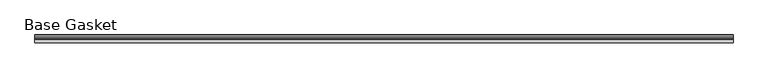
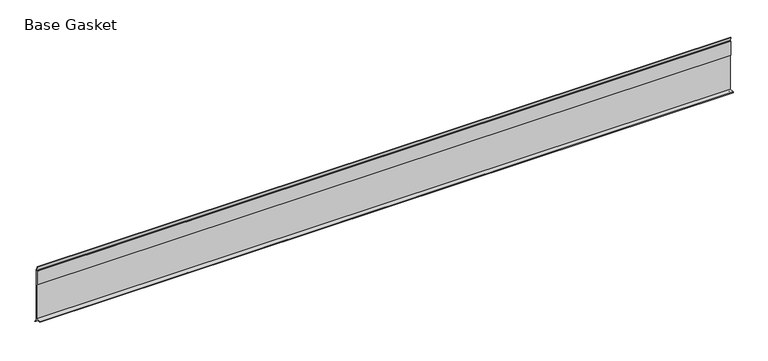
"""IFC4 building model written with IfcOpenShell, lengths in millimetres: furniture geometry, Gasket-Teknion-FHGB-AI_Healthcare-R2021 : Base Gasket."""

from ifc_helpers import new_model, si_unit, frame, origin, place, context, project, spatial, polyline, outline, extrude, source, transform, mapped, element, save


def base_gasket_4e19b224(model_context):
    return source(origin(), model_context, "Body", "SweptSolid", [
        extrude(outline(polyline([(3.7283812, 98.4568417), (3.7283812, 4.3498477), (7.4222115, 0.6560174), (7.8482342, 0.0), (6.8281054, 0.3520979), (2.2043812, 4.3498477), (2.1334222, 6.3818476), (-6.2405171, 6.3818476), (-6.2405171, 7.9398773), (2.2043812, 7.9398773), (2.2043812, 71.4693447), (1.4106313, 71.4693447), (1.4106313, 96.8693477), (2.2043812, 96.8693477), (2.2043812, 98.4568417), (0.6755308, 104.4162708), (0.6755308, 105.2002997), (1.1891543, 104.587663), (3.7283812, 98.4568417)])), frame((-1527.8982117, 0.0, 0.0), z_axis=(1.0, 0.0, 0.0), x_axis=(0.0, 1.0, 0.0)), (0.0, 0.0, 1.0), 1219.2),
    ])


if __name__ == "__main__":
    model = new_model("IFC4")
    model_context = context("Model", 3, world=origin())
    ifc_project = project(units=[si_unit("LENGTHUNIT", "METRE", prefix="MILLI")], contexts=[model_context])
    site = spatial("IfcSite", under=ifc_project)
    building = spatial("IfcBuilding", under=site)
    placement = place(None, origin())
    base_gasket_shape = base_gasket_4e19b224(model_context)
    element("IfcFurniture", 1, ObjectType="Gasket-Teknion-FHGB-AI_Healthcare-R2021 : Base Gasket", at=placement, inside=building, context=model_context, shape_type="MappedRepresentation", body=[
        mapped(base_gasket_shape, transform((0.0, 0.0, 0.0), x_axis=(1.0, 0.0, 0.0), y_axis=(0.0, 1.0, 0.0), z_axis=(0.0, 0.0, 1.0))),
    ])
    save(model, "model.ifc")
